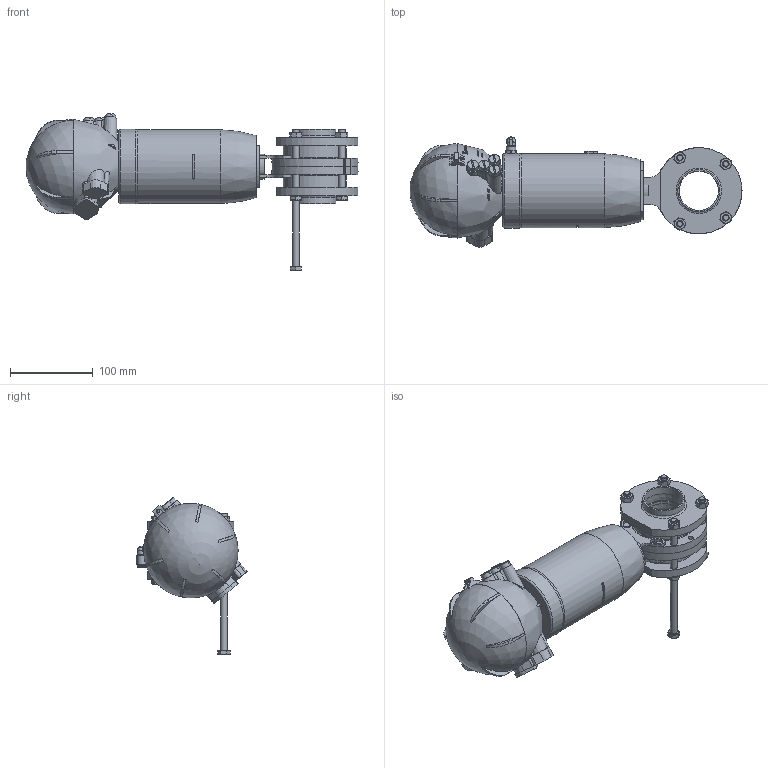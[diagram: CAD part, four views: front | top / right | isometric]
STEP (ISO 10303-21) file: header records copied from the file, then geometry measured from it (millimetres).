
FILE_DESCRIPTION(/* description */ ('ZVF V.FARF.DN50.8X1.65 WAF4 MACH83 SE NC 316 EPDM'),/* implementation_level */ '2;1');
FILE_NAME(/* name */ 'C:\_DED_PWS\BORZ-A\DB\B\EAA\BEAAD9200BEBA-00^SAGOMA.step',/* time_stamp */ '2024-01-10T10:20:47+01:00',/* author */ (''),/* organization */ (''),/* preprocessor_version */ 'ST-DEVELOPER v18.1',/* originating_system */ 'Autodesk Inventor 2022',/* authorisation */ '');
FILE_SCHEMA (('CONFIG_CONTROL_DESIGN'));
Length unit declared in the file: millimetre
Products named in the file (8): BEAAD9200BEBA; UNI 5588 - M8; 3DAAZVFAA052; Supporto-farf-DN25-65-; UNI 5739 - M8 x 80; TWD030050BBA; TPM022200BBA; 3DAAJGIOAA007
Assembly tree (16 placements, depth 2):
  BEAAD9200BEBA
    TPM022200BBA  x2
    UNI 5588 - M8  x4
    UNI 5739 - M8 x 80  x5
    3DAAZVFAA052
    Supporto-farf-DN25-65-
    TWD030050BBA  x2
    3DAAJGIOAA007
Bounding box: 400.46 x 132.89 x 189.99 mm (x, y, z)
Volume: 2186179.2 mm3; surface area: 251753 mm2
Topology: 16 solids, 16 shells, 1233 faces, 3232 edges, 2104 vertices
Faces by surface type: plane 823, cylinder 182, cone 150, bspline 56, torus 19, sphere 3
Full cylindrical faces by diameter (mm): 2 x1, 3 x1, 4 x1, 4.917 x11, 6 x2, 6.2 x16, 6.647 x4, 7 x5, 7.8 x1, 8 x5, 8.2 x12, 8.3 x1, 8.566 x1, 10 x2, 10.376 x1, 11 x1, 11.5 x1, 11.63 x5, 13 x4, 18 x1, 18.5 x2, 24.5 x1, 25 x1, 26 x1, 30 x1, 30.3 x1, 47.5 x2, 49 x2, 50.8 x2, 52.6 x2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
Entity records: 36517 total; most frequent: CARTESIAN_POINT 8733, DIRECTION 5856, ORIENTED_EDGE 5564, EDGE_CURVE 2782, AXIS2_PLACEMENT_3D 2387, VERTEX_POINT 1835, EDGE_LOOP 1169, LINE 1082
